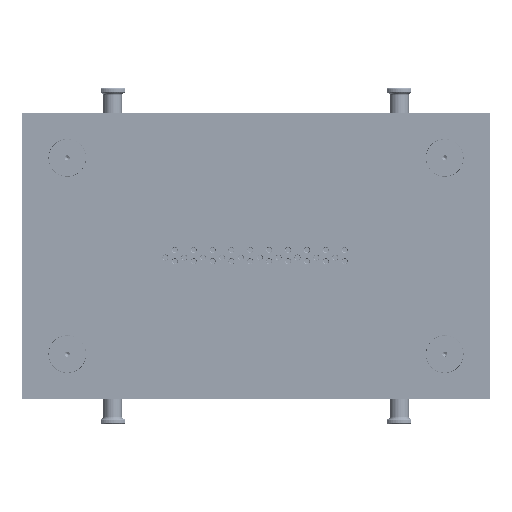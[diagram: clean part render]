
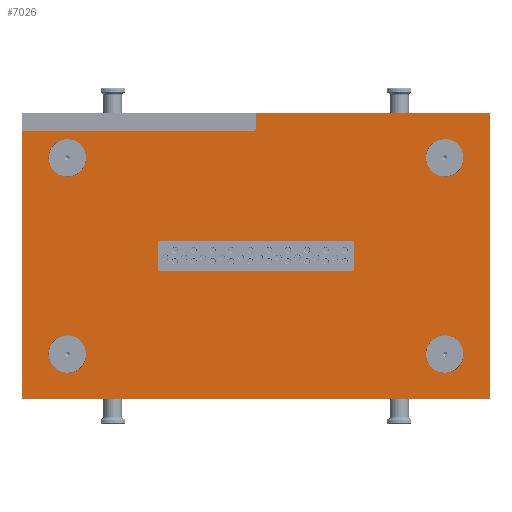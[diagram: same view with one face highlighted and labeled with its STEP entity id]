
A CAD part, left-side view. The second image highlights one B-rep face of the part: STEP entity #7026.
In plain terms, the highlighted planar face has unit normal (-1, 0, 0).
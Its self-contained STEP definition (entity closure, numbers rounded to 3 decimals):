
#7026=ADVANCED_FACE('',(#11230,#11232,#11234,#11236,#11238,#11240),#11242,.F.);
#11230=FACE_BOUND('',#11231,.T.);
#11231=EDGE_LOOP('',(#23445,#23446,#23447,#23448,#23449,#23450,#23451));
#11232=FACE_BOUND('',#11233,.T.);
#11233=EDGE_LOOP('',(#23452,#23453,#23454,#23455,#23456,#23457,#23458,#23459));
#11234=FACE_BOUND('',#11235,.T.);
#11235=EDGE_LOOP('',(#23460));
#11236=FACE_BOUND('',#11237,.T.);
#11237=EDGE_LOOP('',(#23461));
#11238=FACE_BOUND('',#11239,.T.);
#11239=EDGE_LOOP('',(#23462));
#11240=FACE_BOUND('',#11241,.T.);
#11241=EDGE_LOOP('',(#23463));
#11242=PLANE('',#11243);
#11243=AXIS2_PLACEMENT_3D('',#11244,#11245,#11246);
#11244=CARTESIAN_POINT('',(0.,0.,0.));
#11245=DIRECTION('',(1.,0.,0.));
#11246=DIRECTION('',(0.,1.,0.));
#23445=ORIENTED_EDGE('',*,*,#28100,.F.);
#23446=ORIENTED_EDGE('',*,*,#28097,.T.);
#23447=ORIENTED_EDGE('',*,*,#28029,.F.);
#23448=ORIENTED_EDGE('',*,*,#28038,.F.);
#23449=ORIENTED_EDGE('',*,*,#28036,.F.);
#23450=ORIENTED_EDGE('',*,*,#28031,.F.);
#23451=ORIENTED_EDGE('',*,*,#28101,.T.);
#23452=ORIENTED_EDGE('',*,*,#28050,.F.);
#23453=ORIENTED_EDGE('',*,*,#28064,.T.);
#23454=ORIENTED_EDGE('',*,*,#28062,.F.);
#23455=ORIENTED_EDGE('',*,*,#28061,.T.);
#23456=ORIENTED_EDGE('',*,*,#28058,.F.);
#23457=ORIENTED_EDGE('',*,*,#28056,.T.);
#23458=ORIENTED_EDGE('',*,*,#28054,.F.);
#23459=ORIENTED_EDGE('',*,*,#28052,.T.);
#23460=ORIENTED_EDGE('',*,*,#28102,.T.);
#23461=ORIENTED_EDGE('',*,*,#28103,.T.);
#23462=ORIENTED_EDGE('',*,*,#28104,.T.);
#23463=ORIENTED_EDGE('',*,*,#28105,.T.);
#28029=EDGE_CURVE('',#30443,#30437,#30445,.T.);
#28031=EDGE_CURVE('',#30447,#30449,#30450,.T.);
#28036=EDGE_CURVE('',#30449,#30457,#30458,.T.);
#28038=EDGE_CURVE('',#30457,#30443,#30460,.T.);
#28050=EDGE_CURVE('',#30481,#30483,#30484,.F.);
#28052=EDGE_CURVE('',#30486,#30483,#30487,.T.);
#28054=EDGE_CURVE('',#30486,#30489,#30490,.F.);
#28056=EDGE_CURVE('',#30492,#30489,#30493,.T.);
#28058=EDGE_CURVE('',#30492,#30495,#30496,.F.);
#28061=EDGE_CURVE('',#30498,#30495,#30500,.T.);
#28062=EDGE_CURVE('',#30498,#30501,#30502,.F.);
#28064=EDGE_CURVE('',#30481,#30501,#30504,.T.);
#28097=EDGE_CURVE('',#30566,#30437,#30569,.T.);
#28100=EDGE_CURVE('',#30566,#30573,#30574,.F.);
#28101=EDGE_CURVE('',#30447,#30573,#30575,.T.);
#28102=EDGE_CURVE('',#30576,#30576,#30577,.T.);
#28103=EDGE_CURVE('',#30578,#30578,#30579,.T.);
#28104=EDGE_CURVE('',#30580,#30580,#30581,.T.);
#28105=EDGE_CURVE('',#30582,#30582,#30583,.T.);
#30437=VERTEX_POINT('',#34888);
#30443=VERTEX_POINT('',#34900);
#30445=LINE('',#34904,#34905);
#30447=VERTEX_POINT('',#34908);
#30449=VERTEX_POINT('',#34912);
#30450=LINE('',#34913,#34914);
#30457=VERTEX_POINT('',#34932);
#30458=LINE('',#34933,#34934);
#30460=LINE('',#34939,#34940);
#30481=VERTEX_POINT('',#34992);
#30483=VERTEX_POINT('',#34996);
#30484=CIRCLE('',#34997,4.);
#30486=VERTEX_POINT('',#35004);
#30487=LINE('',#35005,#35006);
#30489=VERTEX_POINT('',#35011);
#30490=CIRCLE('',#35012,4.);
#30492=VERTEX_POINT('',#35019);
#30493=LINE('',#35020,#35021);
#30495=VERTEX_POINT('',#35026);
#30496=CIRCLE('',#35027,4.);
#30498=VERTEX_POINT('',#35034);
#30500=LINE('',#35038,#35039);
#30501=VERTEX_POINT('',#35041);
#30502=CIRCLE('',#35042,4.);
#30504=LINE('',#35049,#35050);
#30566=VERTEX_POINT('',#35203);
#30569=LINE('',#35210,#35211);
#30573=VERTEX_POINT('',#35221);
#30574=CIRCLE('',#35222,3.);
#30575=LINE('',#35226,#35227);
#30576=VERTEX_POINT('',#35229);
#30577=CIRCLE('',#35230,25.);
#30578=VERTEX_POINT('',#35234);
#30579=CIRCLE('',#35235,25.);
#30580=VERTEX_POINT('',#35239);
#30581=CIRCLE('',#35240,25.);
#30582=VERTEX_POINT('',#35244);
#30583=CIRCLE('',#35245,25.);
#34888=CARTESIAN_POINT('',(0.,620.,356.));
#34900=CARTESIAN_POINT('',(0.,620.,0.));
#34904=CARTESIAN_POINT('',(0.,620.,0.));
#34905=VECTOR('',#34906,1.);
#34906=DIRECTION('',(0.,0.,1.));
#34908=CARTESIAN_POINT('',(0.,310.,380.));
#34912=CARTESIAN_POINT('',(0.,0.,380.));
#34913=CARTESIAN_POINT('',(0.,310.,380.));
#34914=VECTOR('',#34915,1.);
#34915=DIRECTION('',(0.,-1.,0.));
#34932=CARTESIAN_POINT('',(0.,0.,0.));
#34933=CARTESIAN_POINT('',(0.,0.,380.));
#34934=VECTOR('',#34935,1.);
#34935=DIRECTION('',(0.,0.,-1.));
#34939=CARTESIAN_POINT('',(0.,0.,0.));
#34940=VECTOR('',#34941,1.);
#34941=DIRECTION('',(0.,1.,0.));
#34992=CARTESIAN_POINT('',(0.,436.,210.));
#34996=CARTESIAN_POINT('',(0.,440.,206.));
#34997=AXIS2_PLACEMENT_3D('',#34998,#34999,#35000);
#34998=CARTESIAN_POINT('',(0.,436.,206.));
#34999=DIRECTION('',(1.,0.,0.));
#35000=DIRECTION('',(0.,1.,0.));
#35004=CARTESIAN_POINT('',(0.,440.,174.));
#35005=CARTESIAN_POINT('',(0.,440.,174.));
#35006=VECTOR('',#35007,1.);
#35007=DIRECTION('',(0.,0.,1.));
#35011=CARTESIAN_POINT('',(0.,436.,170.));
#35012=AXIS2_PLACEMENT_3D('',#35013,#35014,#35015);
#35013=CARTESIAN_POINT('',(0.,436.,174.));
#35014=DIRECTION('',(1.,0.,0.));
#35015=DIRECTION('',(0.,0.,-1.));
#35019=CARTESIAN_POINT('',(0.,184.,170.));
#35020=CARTESIAN_POINT('',(0.,184.,170.));
#35021=VECTOR('',#35022,1.);
#35022=DIRECTION('',(0.,1.,0.));
#35026=CARTESIAN_POINT('',(0.,180.,174.));
#35027=AXIS2_PLACEMENT_3D('',#35028,#35029,#35030);
#35028=CARTESIAN_POINT('',(0.,184.,174.));
#35029=DIRECTION('',(1.,0.,0.));
#35030=DIRECTION('',(0.,-1.,0.));
#35034=CARTESIAN_POINT('',(0.,180.,206.));
#35038=CARTESIAN_POINT('',(0.,180.,206.));
#35039=VECTOR('',#35040,1.);
#35040=DIRECTION('',(0.,0.,-1.));
#35041=CARTESIAN_POINT('',(0.,184.,210.));
#35042=AXIS2_PLACEMENT_3D('',#35043,#35044,#35045);
#35043=CARTESIAN_POINT('',(0.,184.,206.));
#35044=DIRECTION('',(1.,0.,0.));
#35045=DIRECTION('',(0.,0.,1.));
#35049=CARTESIAN_POINT('',(0.,436.,210.));
#35050=VECTOR('',#35051,1.);
#35051=DIRECTION('',(0.,-1.,0.));
#35203=CARTESIAN_POINT('',(0.,313.,356.));
#35210=CARTESIAN_POINT('',(0.,313.,356.));
#35211=VECTOR('',#35212,1.);
#35212=DIRECTION('',(0.,1.,0.));
#35221=CARTESIAN_POINT('',(0.,310.,359.));
#35222=AXIS2_PLACEMENT_3D('',#35223,#35224,#35225);
#35223=CARTESIAN_POINT('',(0.,313.,359.));
#35224=DIRECTION('',(1.,0.,0.));
#35225=DIRECTION('',(0.,-1.,0.));
#35226=CARTESIAN_POINT('',(0.,310.,380.));
#35227=VECTOR('',#35228,1.);
#35228=DIRECTION('',(0.,0.,-1.));
#35229=CARTESIAN_POINT('',(0.,585.,320.));
#35230=AXIS2_PLACEMENT_3D('',#35231,#35232,#35233);
#35231=CARTESIAN_POINT('',(0.,560.,320.));
#35232=DIRECTION('',(1.,0.,0.));
#35233=DIRECTION('',(0.,1.,0.));
#35234=CARTESIAN_POINT('',(0.,585.,60.));
#35235=AXIS2_PLACEMENT_3D('',#35236,#35237,#35238);
#35236=CARTESIAN_POINT('',(0.,560.,60.));
#35237=DIRECTION('',(1.,0.,0.));
#35238=DIRECTION('',(0.,1.,0.));
#35239=CARTESIAN_POINT('',(0.,85.,60.));
#35240=AXIS2_PLACEMENT_3D('',#35241,#35242,#35243);
#35241=CARTESIAN_POINT('',(0.,60.,60.));
#35242=DIRECTION('',(1.,0.,0.));
#35243=DIRECTION('',(0.,1.,0.));
#35244=CARTESIAN_POINT('',(0.,85.,320.));
#35245=AXIS2_PLACEMENT_3D('',#35246,#35247,#35248);
#35246=CARTESIAN_POINT('',(0.,60.,320.));
#35247=DIRECTION('',(1.,0.,0.));
#35248=DIRECTION('',(0.,1.,0.));
